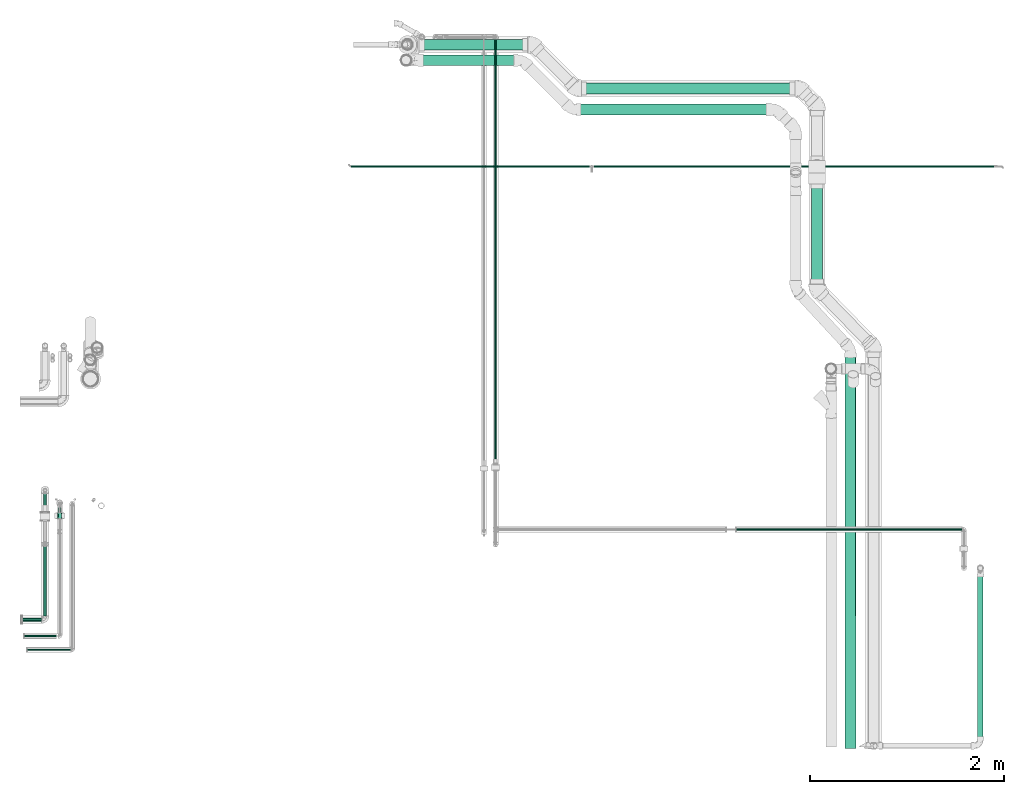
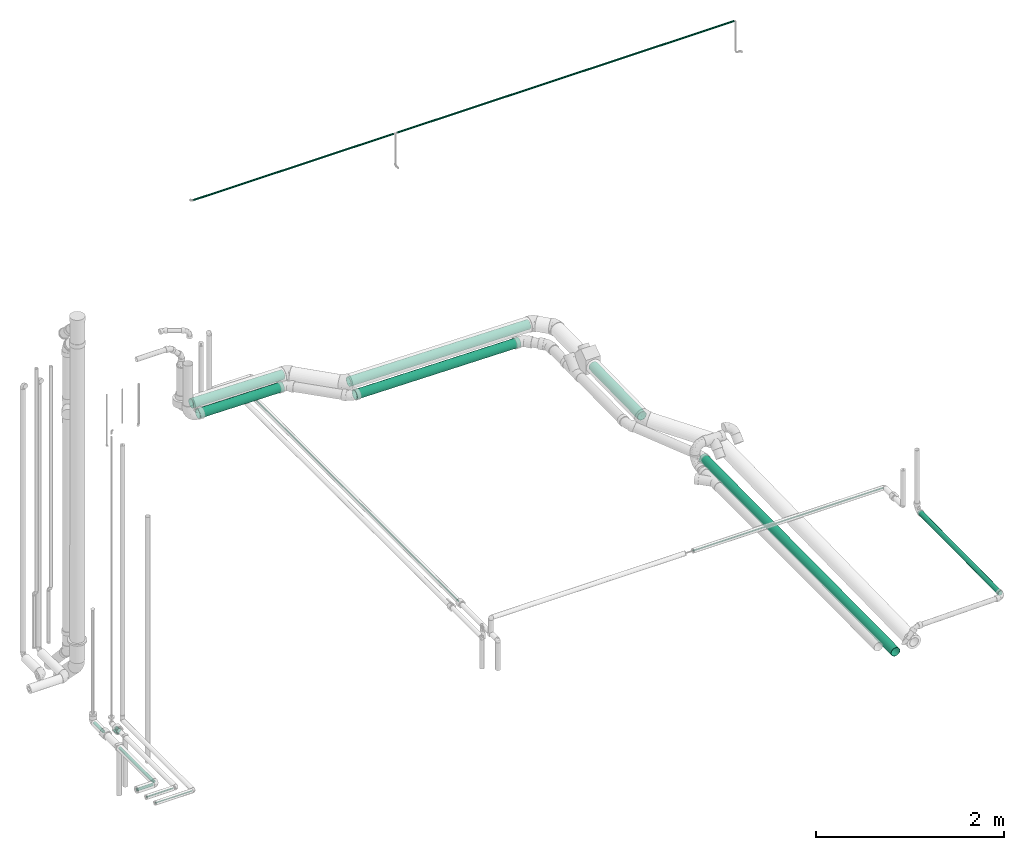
# One storey, part 24 of 78: 16 flow segments, 1 flow controller.
"""IFC2X3 building model written with IfcOpenShell, lengths in millimetres."""

from ifc_helpers import new_model, entity, si_unit, converted_unit, derived_unit, direction, frame, origin_with_axes, origin_2d_with_axis, place, context, subcontext, project, spatial, hollow_circle, extrude, open_shell, surface_model, source, transform, mapped, type_object, element, save


model = new_model("IFC2X3")

# Units and contexts
model_context = context("Model", 3, precision=0.01, world=frame((0.0, 4.29681676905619e-09, 0.0)), true_north=direction((4.01073788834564e-13, 1.0)))
plan_context = context("Plan", 3, precision=0.01, world=frame((0.0, 4.29681676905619e-09, 0.0)), true_north=direction((4.01073788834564e-13, 1.0)))
body_context = subcontext(model_context, "Body", "Model", "MODEL_VIEW")
ifc_project = project(units=[converted_unit("PLANEANGLEUNIT", "DEGREE", entity("IfcPositiveLengthMeasure", 0.0174532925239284), si_unit("PLANEANGLEUNIT", "RADIAN"), dimensions=[0, 0, 0, 0, 0, 0, 0]), si_unit("AREAUNIT", "SQUARE_METRE"), si_unit("LENGTHUNIT", "METRE", prefix="MILLI"), si_unit("MASSUNIT", "GRAM", prefix="KILO"), si_unit("POWERUNIT", "WATT"), si_unit("PRESSUREUNIT", "PASCAL"), si_unit("FORCEUNIT", "NEWTON", prefix="KILO"), si_unit("ELECTRICVOLTAGEUNIT", "VOLT"), si_unit("ELECTRICCURRENTUNIT", "AMPERE"), si_unit("THERMODYNAMICTEMPERATUREUNIT", "DEGREE_CELSIUS"), si_unit("TIMEUNIT", "SECOND"), si_unit("VOLUMEUNIT", "CUBIC_METRE"), derived_unit("LINEARVELOCITYUNIT", [(si_unit("LENGTHUNIT", "METRE"), 1), (si_unit("TIMEUNIT", "SECOND"), -1)]), derived_unit("VOLUMETRICFLOWRATEUNIT", [(si_unit("VOLUMEUNIT", "CUBIC_METRE"), 1), (si_unit("TIMEUNIT", "SECOND"), -1)]), derived_unit("THERMALTRANSMITTANCEUNIT", [(si_unit("POWERUNIT", "WATT"), 1), (si_unit("THERMODYNAMICTEMPERATUREUNIT", "KELVIN"), -1), (si_unit("AREAUNIT", "SQUARE_METRE"), -1)]), derived_unit("SOUNDPRESSUREUNIT", [(si_unit("PRESSUREUNIT", "PASCAL"), 1)])], contexts=[model_context, plan_context])

# Site, building, storey
site_placement = place(None, frame((0.0, -4.29681676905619e-09, 0.0), z_axis=(0.0, 0.0, 1.0), x_axis=(1.0, 0.0, 0.0)))
site = spatial("IfcSite", under=ifc_project, at=site_placement, Name="ENGM", CompositionType="ELEMENT")
building_placement = place(site_placement, frame((0.0, 4.29681676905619e-09, 0.0), z_axis=(0.0, 0.0, 1.0), x_axis=(1.0, 0.0, 0.0)))
building = spatial("IfcBuilding", under=site, at=building_placement, Name="TH", CompositionType="ELEMENT")
storey_placement = place(building_placement, frame((0.0, 0.0, 205200.0), z_axis=(0.0, 0.0, 1.0), x_axis=(1.0, 0.0, 0.0)))
storey = spatial("IfcBuildingStorey", under=building, at=storey_placement, Name="Nivå D + 1,2 m", CompositionType="ELEMENT", Elevation=205200.0)

# Flow controller
valve_type = type_object("IfcValveType", Name="AT3600-20", PredefinedType="NOTDEFINED")
shared_shape_1 = source(origin_with_axes(), body_context, "Body", "SurfaceModel", [
    surface_model("IfcShellBasedSurfaceModel", [(-18.552, 13.0, 50.0), (-18.552, -15.0, 50.0), (9.448, -15.0, 50.0), (9.448, 13.0, 50.0), (9.448, 13.0, 48.0), (9.448, -15.0, 48.0), (-18.552, -15.0, 48.0), (-18.552, 13.0, 48.0), (15.8, -19.27022, -5.16344), (-17.0, -19.95, 0.0), (-17.0, -19.27022, -5.16344), (15.8, -17.27721, -9.975), (-17.0, -17.27721, -9.975), (15.8, -9.975, -17.27721), (-17.0, -9.975, -17.27721), (-17.0, -5.16344, -19.27022), (15.8, -5.16344, -19.27022), (-17.0, 0.0, -19.95), (15.8, -19.95, 0.0), (-17.0, -14.10678, -14.10678), (15.8, -14.10678, -14.10678), (15.8, 0.0, -19.95), (15.8, 5.16344, -19.27022), (-17.0, 5.16344, -19.27022), (-17.0, 9.975, -17.27721), (-17.0, 14.10678, -14.10678), (15.8, 9.975, -17.27721), (15.8, 17.27721, -9.975), (-17.0, 17.27721, -9.975), (-17.0, 19.27022, -5.16344), (15.8, 14.10678, -14.10678), (15.8, 19.27022, -5.16344), (-17.0, 19.95, 0.0), (15.8, 19.95, 0.0), (-17.0, 19.27022, 5.16344), (15.8, 19.27022, 5.16344), (-17.0, 17.27721, 9.975), (15.8, 17.27721, 9.975), (-17.0, 14.10678, 14.10678), (15.8, 14.10678, 14.10678), (-17.0, 9.975, 17.27721), (15.8, 9.975, 17.27721), (-17.0, 5.16344, 19.27022), (15.8, 5.16344, 19.27022), (15.8, 0.0, 19.95), (-17.0, 0.0, 19.95), (15.8, -5.16344, 19.27022), (-17.0, -5.16344, 19.27022), (-17.0, -9.975, 17.27721), (-17.0, -14.10678, 14.10678), (15.8, -9.975, 17.27721), (15.8, -17.27721, 9.975), (-17.0, -17.27721, 9.975), (-17.0, -19.27022, 5.16344), (15.8, -14.10678, 14.10678), (15.8, -19.27022, 5.16344), (15.8, -11.97, 20.73265), (15.8, 0.0, 23.94), (15.8, 6.19613, 23.12426), (15.8, 11.97, 20.73265), (15.8, -20.73265, 11.97), (15.8, 20.73265, 11.97), (15.8, 16.92814, 16.92814), (15.8, 23.12426, 6.19613), (15.8, -16.92814, 16.92814), (15.8, -6.19613, 23.12426), (15.8, -23.94, 0.0), (15.8, -23.12426, 6.19613), (15.8, 23.94, 0.0), (15.8, -20.73265, -11.97), (15.8, 23.12426, -6.19613), (15.8, 16.92814, -16.92814), (15.8, 20.73265, -11.97), (15.8, 11.97, -20.73265), (15.8, 6.19613, -23.12426), (15.8, -11.97, -20.73265), (15.8, -16.92814, -16.92814), (15.8, -23.12426, -6.19613), (15.8, 0.0, -23.94), (15.8, -6.19613, -23.12426), (29.0, 6.19613, -23.12426), (29.0, -11.97, -20.73265), (29.0, 0.0, -23.94), (29.0, 16.92814, -16.92814), (29.0, 11.97, -20.73265), (29.0, 20.73265, -11.97), (29.0, 23.12426, -6.19613), (29.0, -20.73265, -11.97), (29.0, -16.92814, -16.92814), (29.0, -6.19613, -23.12426), (29.0, -23.94, 0.0), (29.0, -23.12426, -6.19613), (29.0, 23.94, 0.0), (29.0, 23.12426, 6.19613), (29.0, 20.73265, 11.97), (29.0, 11.97, 20.73265), (29.0, -20.73265, 11.97), (29.0, 16.92814, 16.92814), (29.0, 6.19613, 23.12426), (29.0, -11.97, 20.73265), (29.0, -16.92814, 16.92814), (29.0, -23.12426, 6.19613), (29.0, 0.0, 23.94), (29.0, -6.19613, 23.12426), (-17.0, 11.97, -20.73265), (-17.0, -6.19613, 23.12426), (-17.0, 6.19613, -23.12426), (-17.0, 16.92814, -16.92814), (-17.0, 6.19613, 23.12426), (-17.0, 20.73265, 11.97), (-17.0, 20.73265, -11.97), (-17.0, 23.12426, -6.19613), (-17.0, 0.0, -23.94), (-17.0, -6.19613, -23.12426), (-17.0, -11.97, -20.73265), (-17.0, -20.73265, -11.97), (-17.0, -20.73265, 11.97), (-17.0, -23.12426, -6.19613), (-17.0, -16.92814, 16.92814), (-17.0, -16.92814, -16.92814), (-17.0, 23.94, 0.0), (-17.0, 23.12426, 6.19613), (-17.0, 16.92814, 16.92814), (-17.0, 11.97, 20.73265), (-17.0, 0.0, 23.94), (-17.0, -23.12426, 6.19613), (-17.0, -23.94, 0.0), (-17.0, -11.97, 20.73265), (-29.0, 6.19613, 23.12426), (-29.0, -6.19613, -23.12426), (-29.0, 0.0, 23.94), (-29.0, 16.92814, 16.92814), (-29.0, 16.92814, -16.92814), (-29.0, 11.97, 20.73265), (-29.0, 20.73265, -11.97), (-29.0, 20.73265, 11.97), (-29.0, 23.12426, 6.19613), (-29.0, 11.97, -20.73265), (-29.0, -16.92814, 16.92814), (-29.0, -11.97, 20.73265), (-29.0, -16.92814, -16.92814), (-29.0, -6.19613, 23.12426), (-29.0, -20.73265, 11.97), (-29.0, -23.12426, 6.19613), (-29.0, -20.73265, -11.97), (-29.0, -11.97, -20.73265), (-29.0, 23.94, 0.0), (-29.0, 23.12426, -6.19613), (-29.0, 6.19613, -23.12426), (-29.0, 0.0, -23.94), (-29.0, -23.12426, -6.19613), (-29.0, -23.94, 0.0), (-3.552, -11.48, 48.0), (-0.58076, -11.08883, 48.0), (2.188, -9.94197, 48.0), (-9.292, -9.94197, 48.0), (-14.64083, -2.97124, 48.0), (6.38997, -5.74, 48.0), (4.56559, -8.11759, 48.0), (-11.66959, 8.11759, 48.0), (-11.66959, -8.11759, 48.0), (-6.52324, -11.08883, 48.0), (-13.49397, -5.74, 48.0), (-14.64083, 2.97124, 48.0), (-15.032, 0.0, 48.0), (7.53683, -2.97124, 48.0), (7.53683, 2.97124, 48.0), (4.56559, 8.11759, 48.0), (6.38997, 5.74, 48.0), (2.188, 9.94197, 48.0), (-0.58076, 11.08883, 48.0), (-13.49397, 5.74, 48.0), (-9.292, 9.94197, 48.0), (-3.552, 11.48, 48.0), (-6.52324, 11.08883, 48.0), (7.928, 0.0, 48.0), (-0.58076, 11.08883, 0.0), (2.188, 9.94197, 0.0), (4.56559, 8.11759, 0.0), (7.53683, 2.97124, 0.0), (7.928, 0.0, 0.0), (6.38997, 5.74, 0.0), (-11.66959, 8.11759, 0.0), (-3.552, 11.48, 0.0), (-9.292, 9.94197, 0.0), (-6.52324, 11.08883, 0.0), (-14.64083, 2.97124, 0.0), (-13.49397, 5.74, 0.0), (7.53683, -2.97124, 0.0), (6.38997, -5.74, 0.0), (-15.032, 0.0, 0.0), (2.188, -9.94197, 0.0), (4.56559, -8.11759, 0.0), (-0.58076, -11.08883, 0.0), (-3.552, -11.48, 0.0), (-14.64083, -2.97124, 0.0), (-11.66959, -8.11759, 0.0), (-13.49397, -5.74, 0.0), (-9.292, -9.94197, 0.0), (-6.52324, -11.08883, 0.0), (16.448, -13.0, 55.0), (16.448, -13.0, 57.0), (9.448, -13.0, 50.0), (9.448, -13.0, 48.0), (16.448, 13.0, 55.0), (16.448, 13.0, 57.0), (86.448, -14.0, 57.0), (16.448, -14.0, 57.0), (16.448, -14.0, 55.0), (86.448, -14.0, 55.0), (86.448, 13.0, 55.0), (86.448, 13.0, 57.0)], [open_shell([[[0, 1, 2]], [[2, 3, 0]], [[4, 5, 6]], [[6, 7, 4]], [[2, 1, 6]], [[6, 5, 2]], [[3, 2, 5]], [[5, 4, 3]], [[0, 3, 4]], [[4, 7, 0]], [[1, 0, 7]], [[7, 6, 1]], [[8, 9, 10]], [[11, 10, 12]], [[13, 14, 15]], [[16, 15, 17]], [[10, 11, 8]], [[8, 18, 9]], [[19, 20, 11]], [[20, 19, 13]], [[13, 19, 14]], [[15, 16, 13]], [[19, 11, 12]], [[17, 21, 16]], [[22, 23, 24]], [[25, 26, 24]], [[27, 28, 29]], [[25, 28, 30]], [[31, 29, 32]], [[23, 22, 21]], [[24, 26, 22]], [[25, 30, 26]], [[28, 27, 30]], [[31, 27, 29]], [[32, 33, 31]], [[23, 21, 17]], [[34, 35, 32]], [[36, 37, 34]], [[36, 38, 39]], [[38, 40, 41]], [[34, 37, 35]], [[35, 33, 32]], [[42, 43, 41]], [[44, 43, 42]], [[39, 38, 41]], [[39, 37, 36]], [[40, 42, 41]], [[42, 45, 44]], [[46, 47, 48]], [[49, 50, 48]], [[51, 52, 53]], [[49, 52, 54]], [[55, 53, 9]], [[47, 46, 44]], [[48, 50, 46]], [[49, 54, 50]], [[52, 51, 54]], [[55, 51, 53]], [[9, 18, 55]], [[47, 44, 45]], [[56, 57, 58]], [[59, 56, 58]], [[60, 59, 61]], [[61, 59, 62]], [[60, 61, 63]], [[56, 60, 64]], [[56, 65, 57]], [[60, 66, 67]], [[60, 56, 59]], [[66, 60, 63]], [[63, 68, 66]], [[69, 66, 70]], [[71, 70, 72]], [[71, 73, 74]], [[71, 74, 70]], [[69, 70, 74]], [[69, 75, 76]], [[77, 66, 69]], [[75, 78, 79]], [[75, 69, 74]], [[78, 75, 74]], [[66, 68, 70]], [[80, 81, 82]], [[83, 80, 84]], [[83, 85, 86]], [[81, 80, 83]], [[81, 83, 86]], [[81, 87, 88]], [[81, 89, 82]], [[87, 90, 91]], [[92, 87, 81]], [[92, 90, 87]], [[92, 81, 86]], [[92, 93, 94]], [[92, 94, 95]], [[92, 95, 96]], [[95, 94, 97]], [[96, 95, 98]], [[96, 99, 100]], [[101, 90, 96]], [[99, 102, 103]], [[99, 96, 98]], [[102, 99, 98]], [[96, 90, 92]], [[63, 93, 68]], [[61, 94, 63]], [[95, 62, 59]], [[61, 62, 97]], [[98, 59, 58]], [[63, 94, 93]], [[93, 92, 68]], [[98, 95, 59]], [[97, 62, 95]], [[97, 94, 61]], [[102, 98, 58]], [[58, 57, 102]], [[65, 103, 57]], [[56, 99, 65]], [[96, 64, 60]], [[56, 64, 100]], [[101, 60, 67]], [[56, 100, 99]], [[99, 103, 65]], [[90, 101, 67]], [[96, 60, 101]], [[96, 100, 64]], [[66, 90, 67]], [[57, 103, 102]], [[77, 91, 66]], [[69, 87, 77]], [[81, 76, 75]], [[69, 76, 88]], [[89, 75, 79]], [[77, 87, 91]], [[91, 90, 66]], [[89, 81, 75]], [[88, 76, 81]], [[88, 87, 69]], [[82, 89, 79]], [[79, 78, 82]], [[74, 80, 78]], [[73, 84, 74]], [[85, 71, 72]], [[73, 71, 83]], [[86, 72, 70]], [[73, 83, 84]], [[84, 80, 74]], [[92, 86, 70]], [[85, 72, 86]], [[85, 83, 71]], [[68, 92, 70]], [[78, 80, 82]], [[104, 105, 106]], [[107, 108, 104]], [[109, 110, 111]], [[106, 105, 112]], [[110, 109, 107]], [[112, 105, 113]], [[113, 105, 114]], [[115, 116, 117]], [[118, 119, 114]], [[119, 116, 115]], [[120, 121, 111]], [[109, 122, 107]], [[122, 123, 107]], [[108, 124, 104]], [[107, 123, 108]], [[124, 105, 104]], [[117, 116, 125]], [[126, 117, 125]], [[119, 118, 116]], [[114, 127, 118]], [[114, 105, 127]], [[109, 111, 121]], [[128, 129, 130]], [[131, 132, 133]], [[134, 135, 136]], [[137, 128, 133]], [[134, 131, 135]], [[138, 139, 140]], [[129, 141, 130]], [[138, 140, 142]], [[143, 142, 144]], [[145, 139, 141]], [[136, 146, 147]], [[132, 131, 134]], [[133, 132, 137]], [[128, 148, 149]], [[128, 137, 148]], [[129, 128, 149]], [[143, 144, 150]], [[150, 151, 143]], [[142, 140, 144]], [[145, 140, 139]], [[129, 145, 141]], [[147, 134, 136]], [[150, 117, 151]], [[144, 115, 150]], [[114, 140, 145]], [[144, 140, 119]], [[113, 145, 129]], [[150, 115, 117]], [[117, 126, 151]], [[113, 114, 145]], [[119, 140, 114]], [[119, 115, 144]], [[112, 113, 129]], [[129, 149, 112]], [[148, 106, 149]], [[137, 104, 148]], [[110, 132, 134]], [[137, 132, 107]], [[111, 134, 147]], [[137, 107, 104]], [[104, 106, 148]], [[120, 111, 147]], [[110, 134, 111]], [[110, 107, 132]], [[146, 120, 147]], [[149, 106, 112]], [[136, 121, 146]], [[135, 109, 136]], [[123, 131, 133]], [[135, 131, 122]], [[108, 133, 128]], [[136, 109, 121]], [[121, 120, 146]], [[108, 123, 133]], [[122, 131, 123]], [[122, 109, 135]], [[124, 108, 128]], [[128, 130, 124]], [[141, 105, 130]], [[139, 127, 141]], [[116, 138, 142]], [[139, 138, 118]], [[125, 142, 143]], [[139, 118, 127]], [[127, 105, 141]], [[126, 125, 143]], [[116, 142, 125]], [[116, 118, 138]], [[151, 126, 143]], [[130, 105, 124]], [[26, 21, 22]], [[27, 26, 30]], [[26, 31, 13]], [[31, 26, 27]], [[33, 13, 31]], [[21, 13, 16]], [[21, 26, 13]], [[20, 8, 11]], [[8, 20, 13]], [[33, 8, 13]], [[33, 35, 8]], [[35, 37, 39]], [[35, 39, 41]], [[35, 43, 51]], [[43, 35, 41]], [[46, 43, 44]], [[55, 18, 8]], [[35, 51, 55]], [[51, 50, 54]], [[50, 51, 46]], [[43, 46, 51]], [[55, 8, 35]], [[42, 52, 45]], [[38, 42, 40]], [[38, 36, 34]], [[38, 34, 42]], [[52, 42, 34]], [[48, 52, 49]], [[52, 48, 47]], [[34, 53, 52]], [[52, 47, 45]], [[9, 53, 34]], [[34, 32, 9]], [[29, 14, 32]], [[24, 29, 28]], [[14, 29, 24]], [[24, 28, 25]], [[17, 24, 23]], [[10, 19, 12]], [[19, 10, 14]], [[14, 17, 15]], [[14, 10, 32]], [[24, 17, 14]], [[32, 10, 9]], [[152, 153, 154]], [[155, 152, 154]], [[156, 154, 157]], [[157, 154, 158]], [[157, 159, 156]], [[155, 156, 160]], [[155, 161, 152]], [[160, 156, 162]], [[154, 156, 155]], [[156, 163, 164]], [[157, 165, 166]], [[159, 157, 166]], [[167, 166, 168]], [[167, 169, 170]], [[166, 167, 159]], [[170, 159, 167]], [[163, 159, 171]], [[156, 159, 163]], [[172, 173, 174]], [[172, 159, 170]], [[173, 172, 170]], [[165, 175, 166]], [[176, 177, 178]], [[176, 178, 179]], [[179, 180, 176]], [[179, 178, 181]], [[176, 180, 182]], [[183, 184, 185]], [[183, 176, 184]], [[182, 186, 187]], [[184, 176, 182]], [[180, 186, 182]], [[180, 188, 186]], [[189, 190, 188]], [[191, 189, 192]], [[191, 193, 194]], [[189, 191, 195]], [[194, 195, 191]], [[195, 196, 197]], [[195, 190, 189]], [[195, 198, 196]], [[195, 194, 198]], [[199, 198, 194]], [[188, 190, 186]], [[195, 156, 190]], [[197, 162, 195]], [[155, 196, 198]], [[197, 196, 160]], [[161, 198, 199]], [[195, 162, 156]], [[156, 164, 190]], [[161, 155, 198]], [[160, 196, 155]], [[160, 162, 197]], [[152, 161, 199]], [[199, 194, 152]], [[193, 153, 194]], [[191, 154, 193]], [[157, 192, 189]], [[191, 192, 158]], [[165, 189, 188]], [[191, 158, 154]], [[154, 153, 193]], [[175, 165, 188]], [[157, 189, 165]], [[157, 158, 192]], [[180, 175, 188]], [[194, 153, 152]], [[179, 166, 180]], [[181, 168, 179]], [[169, 178, 177]], [[181, 178, 167]], [[170, 177, 176]], [[179, 168, 166]], [[166, 175, 180]], [[170, 169, 177]], [[167, 178, 169]], [[167, 168, 181]], [[173, 170, 176]], [[176, 183, 173]], [[185, 174, 183]], [[184, 172, 185]], [[171, 182, 187]], [[184, 182, 159]], [[163, 187, 186]], [[184, 159, 172]], [[172, 174, 185]], [[164, 163, 186]], [[171, 187, 163]], [[171, 159, 182]], [[190, 164, 186]], [[183, 174, 173]], [[200, 201, 202]], [[202, 203, 200]], [[4, 3, 204]], [[205, 204, 3]], [[205, 3, 202]], [[202, 201, 205]], [[204, 205, 200]], [[201, 200, 205]], [[4, 204, 200]], [[200, 203, 4]], [[3, 4, 202]], [[203, 202, 4]], [[206, 207, 208]], [[208, 209, 206]], [[210, 204, 205]], [[205, 211, 210]], [[205, 204, 208]], [[208, 207, 205]], [[211, 205, 207]], [[207, 206, 211]], [[210, 211, 206]], [[206, 209, 210]], [[204, 210, 209]], [[209, 208, 204]]])]),
])
flow_controller_placement = place(storey_placement, frame((895520.48466, 478417.98509, 4450.0), z_axis=(0.0, 3.999999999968e-06, -0.999999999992), x_axis=(0.0, 0.999999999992, 3.999999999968e-06)))
element("IfcFlowController", 1, at=flow_controller_placement, inside=storey, type_object=valve_type, Name="AT3600-20", context=body_context, shape_type="MappedRepresentation", body=[
    mapped(shared_shape_1, transform((0.0, 0.0, 0.0), scale=1.0)),
])

# Flow segments
pipe_segment_type_1 = type_object("IfcPipeSegmentType", Name="MA", PredefinedType="RIGIDSEGMENT")
shared_shape_2 = source(origin_with_axes(), body_context, "Body", "SweptSolid", [
    extrude(hollow_circle(Radius=55.0, WallThickness=2.0, at=origin_2d_with_axis()), frame((0.0, 0.0, 0.0), z_axis=(1.0, 0.0, 0.0), x_axis=(0.0, 1.0, 0.0)), (0.0, 0.0, 1.0), 2008.4),
])
flow_segment_1_placement = place(storey_placement, frame((900840.89592, 482601.83076, 4382.81185999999), z_axis=(-4.20000129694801e-05, -0.999991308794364, -0.00416900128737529), x_axis=(0.999949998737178, -3.07897418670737e-07, -0.0100000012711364)))
element("IfcFlowSegment", 2, at=flow_segment_1_placement, inside=storey, type_object=pipe_segment_type_1, Name="MA", context=body_context, shape_type="MappedRepresentation", body=[
    mapped(shared_shape_2, transform((0.0, 0.0, 0.0), scale=1.0)),
])
shared_shape_3 = source(origin_with_axes(), body_context, "Body", "SweptSolid", [
    extrude(hollow_circle(Radius=29.0, WallThickness=2.0, at=origin_2d_with_axis()), frame((0.0, 0.0, 0.0), z_axis=(1.0, 0.0, 0.0), x_axis=(0.0, 1.0, 0.0)), (0.0, 0.0, 1.0), 1703.2),
])
flow_segment_2_placement = place(storey_placement, frame((905003.37457, 477815.06123, 4308.29715999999), z_axis=(-0.999861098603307, 0.000167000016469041, -0.0166660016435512), x_axis=(-3.31603965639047e-07, -0.999949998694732, -0.0100000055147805)))
element("IfcFlowSegment", 3, at=flow_segment_2_placement, inside=storey, type_object=pipe_segment_type_1, Name="MA", context=body_context, shape_type="MappedRepresentation", body=[
    mapped(shared_shape_3, transform((0.0, 0.0, 0.0), scale=1.0)),
])
pipe_segment_type_2 = type_object("IfcPipeSegmentType", Name="Kobberrør", PredefinedType="RIGIDSEGMENT")
shared_shape_4 = source(origin_with_axes(), body_context, "Body", "SweptSolid", [
    extrude(hollow_circle(Radius=11.0, WallThickness=2.0, at=origin_2d_with_axis()), frame((0.0, 0.0, 0.0), z_axis=(1.0, 0.0, 0.0), x_axis=(0.0, 1.0, 0.0)), (0.0, 0.0, 1.0), 2456.9),
])
flow_segment_3_placement = place(storey_placement, frame((900978.85557, 482016.52017, 8070.08702000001), z_axis=(0.0, 0.0, 1.0), x_axis=(-1.0, 0.0, 0.0)))
element("IfcFlowSegment", 4, at=flow_segment_3_placement, inside=storey, type_object=pipe_segment_type_2, Name="Kobberrør", context=body_context, shape_type="MappedRepresentation", body=[
    mapped(shared_shape_4, transform((0.0, 0.0, 0.0), scale=1.0)),
])
shared_shape_5 = source(origin_with_axes(), body_context, "Body", "SweptSolid", [
    extrude(hollow_circle(Radius=11.0, WallThickness=2.0, at=origin_2d_with_axis()), frame((0.0, 0.0, 0.0), z_axis=(1.0, 0.0, 0.0), x_axis=(0.0, 1.0, 0.0)), (0.0, 0.0, 1.0), 4126.0),
])
flow_segment_4_placement = place(storey_placement, frame((905148.85557, 482016.52017, 8070.08702000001), z_axis=(0.0, 0.0, 1.0), x_axis=(-1.0, 0.0, 0.0)))
element("IfcFlowSegment", 5, at=flow_segment_4_placement, inside=storey, type_object=pipe_segment_type_2, Name="Kobberrør", context=body_context, shape_type="MappedRepresentation", body=[
    mapped(shared_shape_5, transform((0.0, 0.0, 0.0), scale=1.0)),
])
shared_shape_6 = source(origin_with_axes(), body_context, "Body", "SweptSolid", [
    extrude(hollow_circle(Radius=55.0, WallThickness=2.0, at=origin_2d_with_axis()), frame((0.0, 0.0, 0.0), z_axis=(1.0, 0.0, 0.0), x_axis=(0.0, 1.0, 0.0)), (0.0, 0.0, 1.0), 4073.9),
])
flow_segment_5_placement = place(storey_placement, frame((903666.16911, 476018.30066, 4056.14311), z_axis=(0.920291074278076, 0.00399000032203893, -0.391214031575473), x_axis=(-9.53722074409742e-05, 0.999950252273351, 0.00997416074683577)))
element("IfcFlowSegment", 6, at=flow_segment_5_placement, inside=storey, type_object=pipe_segment_type_1, Name="MA", context=body_context, shape_type="MappedRepresentation", body=[
    mapped(shared_shape_6, transform((0.0, 0.0, 0.0), scale=1.0)),
])
shared_shape_7 = source(origin_with_axes(), body_context, "Body", "SweptSolid", [
    extrude(hollow_circle(Radius=7.5, WallThickness=2.0, at=origin_2d_with_axis()), frame((0.0, 0.0, 0.0), z_axis=(1.0, 0.0, 0.0), x_axis=(0.0, 1.0, 0.0)), (0.0, 0.0, 1.0), 452.0),
])
flow_segment_6_placement = place(storey_placement, frame((895184.14071, 477037.61197, 4450.0), z_axis=(0.0, 0.0, 1.0), x_axis=(1.0, 0.0, 0.0)))
element("IfcFlowSegment", 7, at=flow_segment_6_placement, inside=storey, type_object=pipe_segment_type_2, Name="Kobberrør", context=body_context, shape_type="MappedRepresentation", body=[
    mapped(shared_shape_7, transform((0.0, 0.0, 0.0), scale=1.0)),
])
shared_shape_8 = source(origin_with_axes(), body_context, "Body", "SweptSolid", [
    extrude(hollow_circle(Radius=9.0, WallThickness=2.0, at=origin_2d_with_axis()), frame((0.0, 0.0, 0.0), z_axis=(1.0, 0.0, 0.0), x_axis=(0.0, 1.0, 0.0)), (0.0, 0.0, 1.0), 328.4),
])
flow_segment_7_placement = place(storey_placement, frame((895157.49734, 477179.65305, 4450.0), z_axis=(0.0, 0.0, 1.0), x_axis=(1.0, 0.0, 0.0)))
element("IfcFlowSegment", 8, at=flow_segment_7_placement, inside=storey, type_object=pipe_segment_type_2, Name="Kobberrør", context=body_context, shape_type="MappedRepresentation", body=[
    mapped(shared_shape_8, transform((0.0, 0.0, 0.0), scale=1.0)),
])
shared_shape_9 = source(origin_with_axes(), body_context, "Body", "SweptSolid", [
    extrude(hollow_circle(Radius=17.5, WallThickness=2.0, at=origin_2d_with_axis()), frame((0.0, 0.0, 0.0), z_axis=(1.0, 0.0, 0.0), x_axis=(0.0, 1.0, 0.0)), (0.0, 0.0, 1.0), 723.0),
])
flow_segment_8_placement = place(storey_placement, frame((895369.5, 478106.37013, 4450.0), z_axis=(0.0, 0.0, 1.0), x_axis=(0.0, -1.0, 0.0)))
element("IfcFlowSegment", 9, at=flow_segment_8_placement, inside=storey, type_object=pipe_segment_type_2, Name="Kobberrør", context=body_context, shape_type="MappedRepresentation", body=[
    mapped(shared_shape_9, transform((0.0, 0.0, 0.0), scale=1.0)),
])
shared_shape_10 = source(origin_with_axes(), body_context, "Body", "SweptSolid", [
    extrude(hollow_circle(Radius=17.5, WallThickness=2.0, at=origin_2d_with_axis()), frame((0.0, 0.0, 0.0), z_axis=(1.0, 0.0, 0.0), x_axis=(0.0, 1.0, 0.0)), (0.0, 0.0, 1.0), 194.5),
])
flow_segment_9_placement = place(storey_placement, frame((895369.5, 478451.45641, 4450.0), z_axis=(0.0, 0.0, 1.0), x_axis=(0.0, 1.0, 0.0)))
element("IfcFlowSegment", 10, at=flow_segment_9_placement, inside=storey, type_object=pipe_segment_type_2, Name="Kobberrør", context=body_context, shape_type="MappedRepresentation", body=[
    mapped(shared_shape_10, transform((0.0, 0.0, 0.0), scale=1.0)),
])
shared_shape_11 = source(origin_with_axes(), body_context, "Body", "SweptSolid", [
    extrude(hollow_circle(Radius=55.0, WallThickness=2.0, at=origin_2d_with_axis()), frame((0.0, 0.0, 0.0), z_axis=(1.0, 0.0, 0.0), x_axis=(0.0, 1.0, 0.0)), (0.0, 0.0, 1.0), 1033.3),
])
flow_segment_10_placement = place(storey_placement, frame((899210.2845, 483108.11831, 4401.21509000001), z_axis=(-4.20000129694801e-05, -0.999991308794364, -0.00416900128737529), x_axis=(0.999949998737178, -3.07897418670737e-07, -0.0100000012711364)))
element("IfcFlowSegment", 11, at=flow_segment_10_placement, inside=storey, type_object=pipe_segment_type_1, Name="MA", context=body_context, shape_type="MappedRepresentation", body=[
    mapped(shared_shape_11, transform((0.0, 0.0, 0.0), scale=1.0)),
])
pipe_segment_type_3 = type_object("IfcPipeSegmentType", Name="SUPER MA", PredefinedType="RIGIDSEGMENT")
flow_segment_11_placement = place(storey_placement, frame((903320.98069, 481834.03276, 4354.48555000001), z_axis=(-0.969135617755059, -0.00492999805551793, 0.24647890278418), x_axis=(4.06955415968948e-07, -0.999800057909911, -0.0199961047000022)))
element("IfcFlowSegment", 12, at=flow_segment_11_placement, inside=storey, type_object=pipe_segment_type_3, Name="SUPER MA", context=body_context, shape_type="MappedRepresentation", body=[
    mapped(shared_shape_11, transform((0.0, 0.0, 0.0), scale=1.0)),
])
shared_shape_12 = source(origin_with_axes(), body_context, "Body", "SweptSolid", [
    extrude(hollow_circle(Radius=55.0, WallThickness=2.0, at=origin_2d_with_axis()), frame((0.0, 0.0, 0.0), z_axis=(1.0, 0.0, 0.0), x_axis=(0.0, 1.0, 0.0)), (0.0, 0.0, 1.0), 2201.0),
])
flow_segment_12_placement = place(storey_placement, frame((900892.49215, 482818.6253, 4403.37080999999), z_axis=(-0.000196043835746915, -0.999876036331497, -0.0157440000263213), x_axis=(0.999922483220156, 0.0, -0.0124510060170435)))
element("IfcFlowSegment", 13, at=flow_segment_12_placement, inside=storey, type_object=pipe_segment_type_3, Name="SUPER MA", context=body_context, shape_type="MappedRepresentation", body=[
    mapped(shared_shape_12, transform((0.0, 0.0, 0.0), scale=1.0)),
])
shared_shape_13 = source(origin_with_axes(), body_context, "Body", "SweptSolid", [
    extrude(hollow_circle(Radius=55.0, WallThickness=2.0, at=origin_2d_with_axis()), frame((0.0, 0.0, 0.0), z_axis=(1.0, 0.0, 0.0), x_axis=(0.0, 1.0, 0.0)), (0.0, 0.0, 1.0), 1119.2),
])
flow_segment_13_placement = place(storey_placement, frame((899222.41737, 483269.44468, 4433.98357000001), z_axis=(-0.000115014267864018, -0.999976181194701, -0.00690100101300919), x_axis=(0.999861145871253, 0.0, -0.0166640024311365)))
element("IfcFlowSegment", 14, at=flow_segment_13_placement, inside=storey, type_object=pipe_segment_type_3, Name="SUPER MA", context=body_context, shape_type="MappedRepresentation", body=[
    mapped(shared_shape_13, transform((0.0, 0.0, 0.0), scale=1.0)),
])
shared_shape_14 = source(origin_with_axes(), body_context, "Body", "SweptSolid", [
    extrude(hollow_circle(Radius=9.0, WallThickness=2.0, at=origin_2d_with_axis()), frame((0.0, 0.0, 0.0), z_axis=(1.0, 0.0, 0.0), x_axis=(0.0, 1.0, 0.0)), (0.0, 0.0, 1.0), 2327.6),
])
flow_segment_14_placement = place(storey_placement, frame((902488.50163, 478275.49112, 4410.0), z_axis=(0.0, 0.0, 1.0), x_axis=(1.0, 0.0, 0.0)))
element("IfcFlowSegment", 15, at=flow_segment_14_placement, inside=storey, type_object=pipe_segment_type_2, Name="Kobberrør", context=body_context, shape_type="MappedRepresentation", body=[
    mapped(shared_shape_14, transform((0.0, 0.0, 0.0), scale=1.0)),
])
shared_shape_15 = source(origin_with_axes(), body_context, "Body", "SweptSolid", [
    extrude(hollow_circle(Radius=9.0, WallThickness=2.0, at=origin_2d_with_axis()), frame((0.0, 0.0, 0.0), z_axis=(1.0, 0.0, 0.0), x_axis=(0.0, 1.0, 0.0)), (0.0, 0.0, 1.0), 4375.2),
])
flow_segment_15_placement = place(storey_placement, frame((900010.50163, 483333.12926, 4210.0), z_axis=(0.0, 0.0, 1.0), x_axis=(0.0, -1.0, 0.0)))
element("IfcFlowSegment", 16, at=flow_segment_15_placement, inside=storey, type_object=pipe_segment_type_2, Name="Kobberrør", context=body_context, shape_type="MappedRepresentation", body=[
    mapped(shared_shape_15, transform((0.0, 0.0, 0.0), scale=1.0)),
])
shared_shape_16 = source(origin_with_axes(), body_context, "Body", "SweptSolid", [
    extrude(hollow_circle(Radius=17.5, WallThickness=2.0, at=origin_2d_with_axis()), frame((0.0, 0.0, 0.0), z_axis=(1.0, 0.0, 0.0), x_axis=(0.0, 1.0, 0.0)), (0.0, 0.0, 1.0), 198.2),
])
flow_segment_16_placement = place(storey_placement, frame((895334.5, 477348.36592, 4450.0), z_axis=(0.0, 0.0, 1.0), x_axis=(-1.0, 0.0, 0.0)))
element("IfcFlowSegment", 17, at=flow_segment_16_placement, inside=storey, type_object=pipe_segment_type_2, Name="Kobberrør", context=body_context, shape_type="MappedRepresentation", body=[
    mapped(shared_shape_16, transform((0.0, 0.0, 0.0), scale=1.0)),
])

save(model, "model.ifc")
